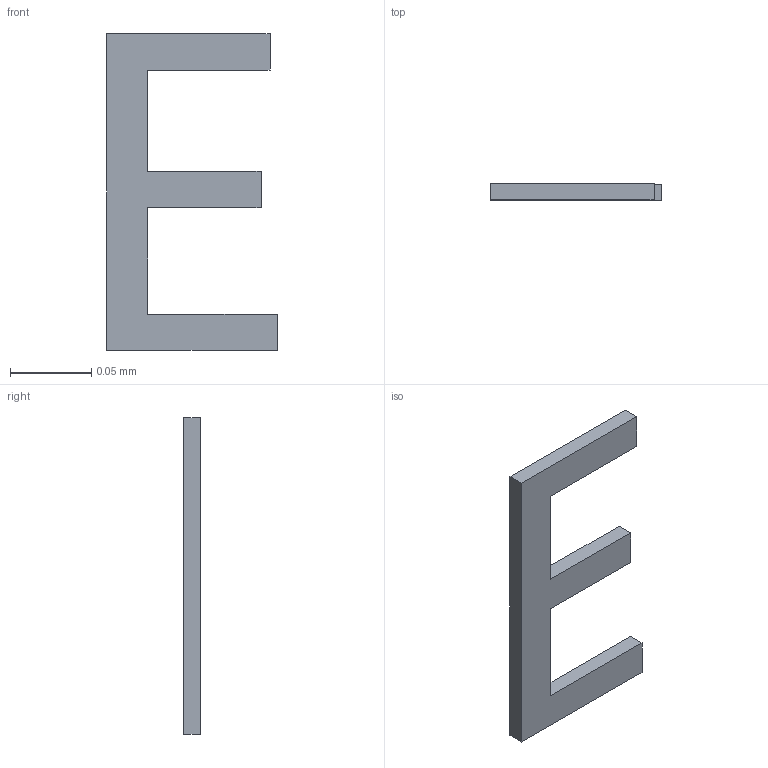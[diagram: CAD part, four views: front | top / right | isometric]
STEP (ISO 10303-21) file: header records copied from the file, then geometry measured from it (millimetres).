
FILE_DESCRIPTION(/* description */ ('STEP AP242 Edition 2','CAx-IF Rec.Pracs.---Representation and Presentation of Product Manufacturing Information (PMI)---4.0---2014-10-13','CAx-IF Rec.Pracs.---3D Tessellated Geometry---0.4---2014-09-14','2;1','CAx-IF Rec.Pracs.---User Defined Attributes---1.5---2016-08-15'),/* implementation_level */ '2;1');
FILE_NAME(/* name */ 'Assembly 1 - SW-TH_3P-L5.8_WSGT-3P-CC~SW-TH_3P-L5.8_WSGT-3P-CC~nxQB (3)',/* time_stamp */ '2026-04-02T09:55:27Z',/* author */ (''),/* organization */ (''),/* preprocessor_version */ 'ST-DEVELOPER v20',/* originating_system */ 'ONSHAPE BY PTC INC, 1.212',/* authorisation */ ' ');
FILE_SCHEMA (('AP242_MANAGED_MODEL_BASED_3D_ENGINEERING_MIM_LF { 1 0 10303 442 3 1 4 }'));
Length unit declared in the file: metre
Products named in the file (1): SW-TH_3P-L5.8_WSGT-3P-CC~SW-TH_3P-L5.8_WSGT-3P-CC~nxQB
Bounding box: 0.1 x 0.01 x 0.19 mm (x, y, z)
Volume: 0 mm3; surface area: 0 mm2
Topology: 1 solids, 1 shells, 14 faces, 36 edges, 24 vertices
Faces by surface type: plane 14
Entity records: 541 total; most frequent: CARTESIAN_POINT 75, ORIENTED_EDGE 72, DIRECTION 66, EDGE_CURVE 36, LINE 36, VECTOR 36, VERTEX_POINT 24, PRESENTATION_STYLE_ASSIGNMENT 15
